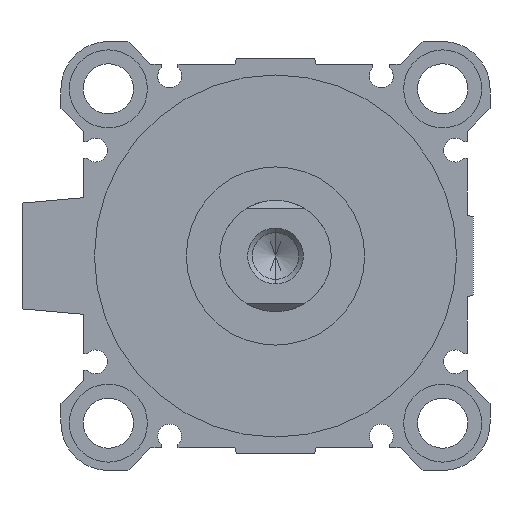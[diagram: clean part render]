
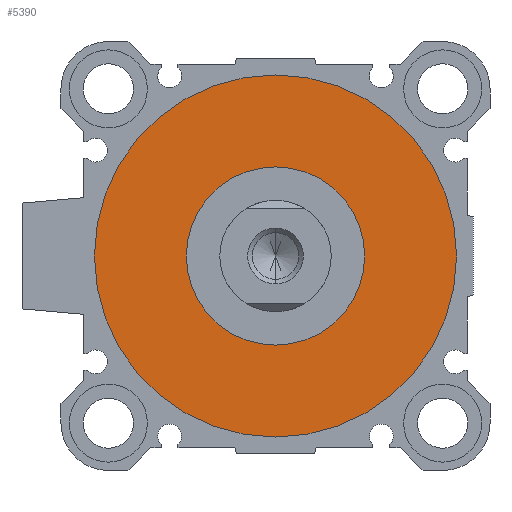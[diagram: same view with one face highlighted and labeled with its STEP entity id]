
A CAD part, left-side view. The second image highlights one B-rep face of the part: STEP entity #5390.
In plain terms, the highlighted planar face has unit normal (-1, 0, 0).
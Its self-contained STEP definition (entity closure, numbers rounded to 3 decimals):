
#41 = CARTESIAN_POINT ( 'NONE',  ( 4., 0., 0. ) ) ;
#49 = EDGE_CURVE ( 'NONE', #1592, #1367, #3443, .T. ) ;
#97 = CARTESIAN_POINT ( 'NONE',  ( 4., 0., 0. ) ) ;
#236 = CIRCLE ( 'NONE', #3484, 32.5 ) ;
#391 = DIRECTION ( 'NONE',  ( 1., 0., 0. ) ) ;
#515 = AXIS2_PLACEMENT_3D ( 'NONE', #4591, #391, #4096 ) ;
#587 = EDGE_LOOP ( 'NONE', ( #3198, #3996 ) ) ;
#742 = FACE_OUTER_BOUND ( 'NONE', #3134, .T. ) ;
#796 = EDGE_CURVE ( 'NONE', #1506, #4661, #5096, .T. ) ;
#1264 = CARTESIAN_POINT ( 'NONE',  ( 4., 0., 32.5 ) ) ;
#1321 = DIRECTION ( 'NONE',  ( 0., 0., -1. ) ) ;
#1367 = VERTEX_POINT ( 'NONE', #4044 ) ;
#1506 = VERTEX_POINT ( 'NONE', #3431 ) ;
#1550 = DIRECTION ( 'NONE',  ( 1., 0., 0. ) ) ;
#1592 = VERTEX_POINT ( 'NONE', #1787 ) ;
#1608 = ORIENTED_EDGE ( 'NONE', *, *, #3550, .F. ) ;
#1787 = CARTESIAN_POINT ( 'NONE',  ( 4., 0., 16. ) ) ;
#1956 = CIRCLE ( 'NONE', #5198, 16. ) ;
#2007 = EDGE_CURVE ( 'NONE', #1367, #1592, #1956, .T. ) ;
#2208 = AXIS2_PLACEMENT_3D ( 'NONE', #3889, #2220, #2275 ) ;
#2220 = DIRECTION ( 'NONE',  ( 1., 0., 0. ) ) ;
#2243 = DIRECTION ( 'NONE',  ( 0., 0., -1. ) ) ;
#2275 = DIRECTION ( 'NONE',  ( 0., 0., -1. ) ) ;
#2413 = PLANE ( 'NONE',  #3340 ) ;
#2476 = DIRECTION ( 'NONE',  ( 1., 0., 0. ) ) ;
#3134 = EDGE_LOOP ( 'NONE', ( #1608, #4859 ) ) ;
#3188 = DIRECTION ( 'NONE',  ( 0., 1., 0. ) ) ;
#3198 = ORIENTED_EDGE ( 'NONE', *, *, #49, .T. ) ;
#3340 = AXIS2_PLACEMENT_3D ( 'NONE', #3596, #5295, #3188 ) ;
#3431 = CARTESIAN_POINT ( 'NONE',  ( 4., 0., -32.5 ) ) ;
#3443 = CIRCLE ( 'NONE', #515, 16. ) ;
#3484 = AXIS2_PLACEMENT_3D ( 'NONE', #97, #1550, #2243 ) ;
#3550 = EDGE_CURVE ( 'NONE', #4661, #1506, #236, .T. ) ;
#3596 = CARTESIAN_POINT ( 'NONE',  ( 4., 0., 0. ) ) ;
#3889 = CARTESIAN_POINT ( 'NONE',  ( 4., 0., 0. ) ) ;
#3996 = ORIENTED_EDGE ( 'NONE', *, *, #2007, .T. ) ;
#4044 = CARTESIAN_POINT ( 'NONE',  ( 4., 0., -16. ) ) ;
#4096 = DIRECTION ( 'NONE',  ( 0., 0., -1. ) ) ;
#4591 = CARTESIAN_POINT ( 'NONE',  ( 4., 0., 0. ) ) ;
#4661 = VERTEX_POINT ( 'NONE', #1264 ) ;
#4859 = ORIENTED_EDGE ( 'NONE', *, *, #796, .F. ) ;
#5096 = CIRCLE ( 'NONE', #2208, 32.5 ) ;
#5198 = AXIS2_PLACEMENT_3D ( 'NONE', #41, #2476, #1321 ) ;
#5295 = DIRECTION ( 'NONE',  ( 1., 0., 0. ) ) ;
#5319 = FACE_BOUND ( 'NONE', #587, .T. ) ;
#5390 = ADVANCED_FACE ( 'NONE', ( #742, #5319 ), #2413, .F. ) ;
